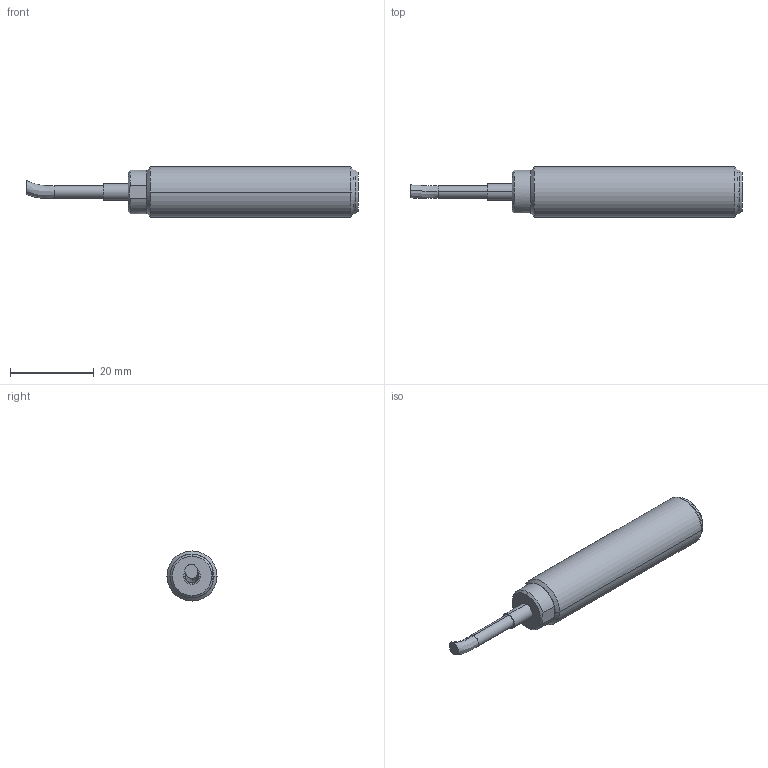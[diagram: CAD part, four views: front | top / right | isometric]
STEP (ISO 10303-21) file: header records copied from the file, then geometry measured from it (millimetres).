
FILE_DESCRIPTION((''),'2;1');
FILE_NAME('0000040493_ASM','2013-02-07T',('11000065'),(''),'PRO/ENGINEER BY PARAMETRIC TECHNOLOGY CORPORATION, 2012360','PRO/ENGINEER BY PARAMETRIC TECHNOLOGY CORPORATION, 2012360','');
FILE_SCHEMA(('AUTOMOTIVE_DESIGN { 1 0 10303 214 1 1 1 1 }'));
Length unit declared in the file: millimetre
Products named in the file (5): 0000040490; 0000040491; 0000040500; 0000043130_AF0; 0000040493_ASM
Assembly tree (4 placements, depth 2):
  0000040493_ASM
    0000040490
    0000040491
    0000040500
    0000043130_AF0
Bounding box: 79.46 x 12 x 12 mm (x, y, z)
Volume: 2807.2 mm3; surface area: 4768.3 mm2
Topology: 5 solids, 5 shells, 539 faces, 1498 edges, 978 vertices
Faces by surface type: cylinder 449, bspline 32, plane 28, cone 18, torus 12
Entity records: 26046 total; most frequent: CARTESIAN_POINT 5201, DIRECTION 3465, ORIENTED_EDGE 2996, EDGE_CURVE 1498, AXIS2_PLACEMENT_3D 1486, PRESENTATION_STYLE_ASSIGNMENT 1427, STYLED_ITEM 1378, CURVE_STYLE 1362
